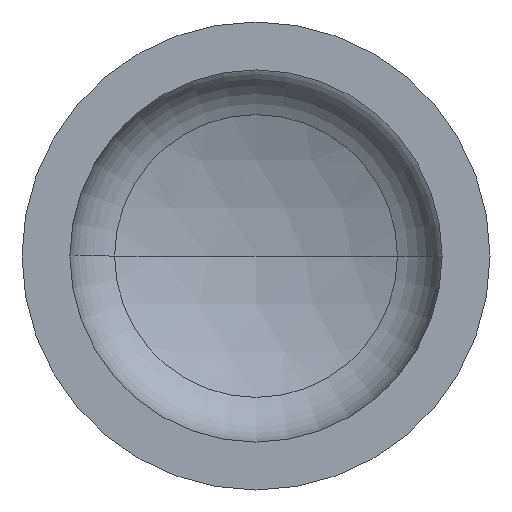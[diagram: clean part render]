
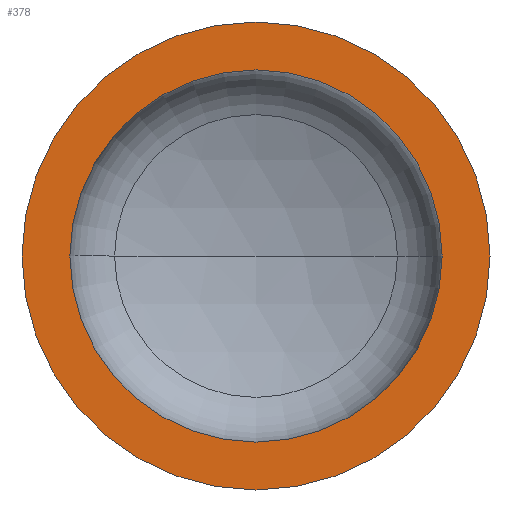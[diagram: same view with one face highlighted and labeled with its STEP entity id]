
A CAD part, front view. The second image highlights one B-rep face of the part: STEP entity #378.
In plain terms, the highlighted planar face has unit normal (0, -1, 0).
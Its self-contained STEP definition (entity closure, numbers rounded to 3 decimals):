
#20 = VERTEX_POINT ( 'NONE', #244 ) ;
#22 = ORIENTED_EDGE ( 'NONE', *, *, #387, .T. ) ;
#26 = EDGE_LOOP ( 'NONE', ( #163, #65 ) ) ;
#36 = CARTESIAN_POINT ( 'NONE',  ( 0., 0., 0. ) ) ;
#63 = VERTEX_POINT ( 'NONE', #275 ) ;
#65 = ORIENTED_EDGE ( 'NONE', *, *, #340, .F. ) ;
#72 = AXIS2_PLACEMENT_3D ( 'NONE', #36, #279, #227 ) ;
#81 = VERTEX_POINT ( 'NONE', #222 ) ;
#94 = EDGE_LOOP ( 'NONE', ( #22, #361 ) ) ;
#99 = CARTESIAN_POINT ( 'NONE',  ( -254., 0., 0. ) ) ;
#109 = VERTEX_POINT ( 'NONE', #225 ) ;
#120 = CARTESIAN_POINT ( 'NONE',  ( 0., 0., 0. ) ) ;
#125 = AXIS2_PLACEMENT_3D ( 'NONE', #300, #307, #305 ) ;
#129 = AXIS2_PLACEMENT_3D ( 'NONE', #328, #342, #341 ) ;
#148 = EDGE_CURVE ( 'NONE', #81, #63, #280, .T. ) ;
#154 = EDGE_CURVE ( 'NONE', #109, #20, #339, .T. ) ;
#163 = ORIENTED_EDGE ( 'NONE', *, *, #154, .F. ) ;
#208 = DIRECTION ( 'NONE',  ( -1., 0., 0. ) ) ;
#217 = AXIS2_PLACEMENT_3D ( 'NONE', #99, #357, #208 ) ;
#222 = CARTESIAN_POINT ( 'NONE',  ( -254., 0., 0. ) ) ;
#225 = CARTESIAN_POINT ( 'NONE',  ( 202., 0., 0. ) ) ;
#227 = DIRECTION ( 'NONE',  ( 1., 0., 0. ) ) ;
#238 = AXIS2_PLACEMENT_3D ( 'NONE', #120, #312, #400 ) ;
#244 = CARTESIAN_POINT ( 'NONE',  ( -202., 0., 0. ) ) ;
#245 = CIRCLE ( 'NONE', #72, 202. ) ;
#275 = CARTESIAN_POINT ( 'NONE',  ( 254., 0., 0. ) ) ;
#279 = DIRECTION ( 'NONE',  ( 0., -1., 0. ) ) ;
#280 = CIRCLE ( 'NONE', #129, 254. ) ;
#285 = FACE_OUTER_BOUND ( 'NONE', #94, .T. ) ;
#295 = FACE_BOUND ( 'NONE', #26, .T. ) ;
#300 = CARTESIAN_POINT ( 'NONE',  ( 0., 0., 0. ) ) ;
#305 = DIRECTION ( 'NONE',  ( 1., 0., 0. ) ) ;
#307 = DIRECTION ( 'NONE',  ( 0., -1., 0. ) ) ;
#312 = DIRECTION ( 'NONE',  ( 0., -1., 0. ) ) ;
#328 = CARTESIAN_POINT ( 'NONE',  ( 0., 0., 0. ) ) ;
#339 = CIRCLE ( 'NONE', #125, 202. ) ;
#340 = EDGE_CURVE ( 'NONE', #20, #109, #245, .T. ) ;
#341 = DIRECTION ( 'NONE',  ( 1., 0., 0. ) ) ;
#342 = DIRECTION ( 'NONE',  ( 0., -1., 0. ) ) ;
#343 = CIRCLE ( 'NONE', #238, 254. ) ;
#357 = DIRECTION ( 'NONE',  ( 0., 1., 0. ) ) ;
#361 = ORIENTED_EDGE ( 'NONE', *, *, #148, .T. ) ;
#374 = PLANE ( 'NONE',  #217 ) ;
#378 = ADVANCED_FACE ( 'NONE', ( #295, #285 ), #374, .F. ) ;
#387 = EDGE_CURVE ( 'NONE', #63, #81, #343, .T. ) ;
#400 = DIRECTION ( 'NONE',  ( 1., 0., 0. ) ) ;
